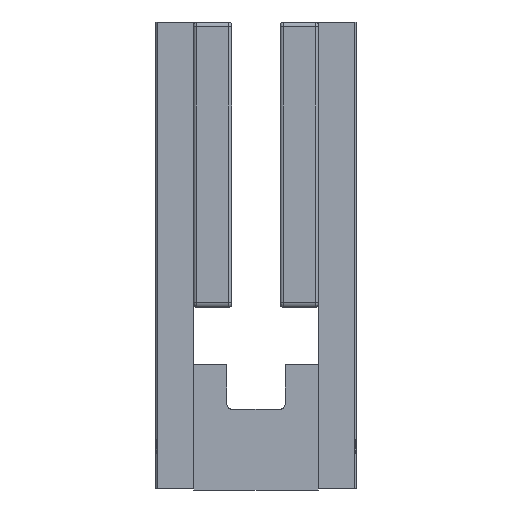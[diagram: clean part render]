
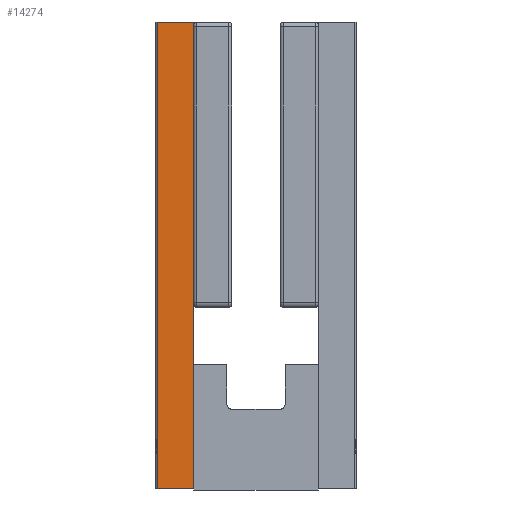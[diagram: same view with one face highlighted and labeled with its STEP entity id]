
A CAD part, left-side view. The second image highlights one B-rep face of the part: STEP entity #14274.
In plain terms, the highlighted planar face has unit normal (-1, 0, 0).
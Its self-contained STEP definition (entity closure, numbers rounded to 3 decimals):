
#450 = VECTOR ( 'NONE', #19859, 1000. ) ;
#1222 = CARTESIAN_POINT ( 'NONE',  ( -44.95, 1.8, 24.5 ) ) ;
#1432 = LINE ( 'NONE', #1222, #12711 ) ;
#1705 = CARTESIAN_POINT ( 'NONE',  ( -44.95, -2., 24.5 ) ) ;
#2765 = EDGE_LOOP ( 'NONE', ( #18179, #3707, #20962, #5605 ) ) ;
#2990 = DIRECTION ( 'NONE',  ( 0., 0., -1. ) ) ;
#3707 = ORIENTED_EDGE ( 'NONE', *, *, #20869, .T. ) ;
#4949 = VECTOR ( 'NONE', #16805, 1000. ) ;
#5019 = EDGE_CURVE ( 'NONE', #10211, #21285, #18933, .T. ) ;
#5324 = CARTESIAN_POINT ( 'NONE',  ( -44.95, -2., 24.5 ) ) ;
#5575 = CARTESIAN_POINT ( 'NONE',  ( -44.95, -2., -24.5 ) ) ;
#5605 = ORIENTED_EDGE ( 'NONE', *, *, #7971, .F. ) ;
#7971 = EDGE_CURVE ( 'NONE', #9178, #10211, #13076, .T. ) ;
#8553 = DIRECTION ( 'NONE',  ( 1., 0., 0. ) ) ;
#8799 = CARTESIAN_POINT ( 'NONE',  ( -44.95, 1.8, -24.5 ) ) ;
#9178 = VERTEX_POINT ( 'NONE', #21898 ) ;
#10118 = VERTEX_POINT ( 'NONE', #14717 ) ;
#10143 = LINE ( 'NONE', #1705, #4949 ) ;
#10211 = VERTEX_POINT ( 'NONE', #10894 ) ;
#10894 = CARTESIAN_POINT ( 'NONE',  ( -44.95, -2., -24.5 ) ) ;
#11148 = VECTOR ( 'NONE', #20702, 1000. ) ;
#12040 = EDGE_CURVE ( 'NONE', #9178, #10118, #10143, .T. ) ;
#12711 = VECTOR ( 'NONE', #2990, 1000. ) ;
#13076 = LINE ( 'NONE', #19415, #450 ) ;
#14274 = ADVANCED_FACE ( 'NONE', ( #15666 ), #20343, .F. ) ;
#14717 = CARTESIAN_POINT ( 'NONE',  ( -44.95, 1.8, 24.5 ) ) ;
#15666 = FACE_OUTER_BOUND ( 'NONE', #2765, .T. ) ;
#16805 = DIRECTION ( 'NONE',  ( 0., 1., 0. ) ) ;
#18179 = ORIENTED_EDGE ( 'NONE', *, *, #12040, .T. ) ;
#18916 = AXIS2_PLACEMENT_3D ( 'NONE', #5324, #8553, #19102 ) ;
#18933 = LINE ( 'NONE', #5575, #11148 ) ;
#19102 = DIRECTION ( 'NONE',  ( 0., 1., 0. ) ) ;
#19415 = CARTESIAN_POINT ( 'NONE',  ( -44.95, -2., 24.5 ) ) ;
#19859 = DIRECTION ( 'NONE',  ( 0., 0., -1. ) ) ;
#20343 = PLANE ( 'NONE',  #18916 ) ;
#20702 = DIRECTION ( 'NONE',  ( 0., 1., 0. ) ) ;
#20869 = EDGE_CURVE ( 'NONE', #10118, #21285, #1432, .T. ) ;
#20962 = ORIENTED_EDGE ( 'NONE', *, *, #5019, .F. ) ;
#21285 = VERTEX_POINT ( 'NONE', #8799 ) ;
#21898 = CARTESIAN_POINT ( 'NONE',  ( -44.95, -2., 24.5 ) ) ;
